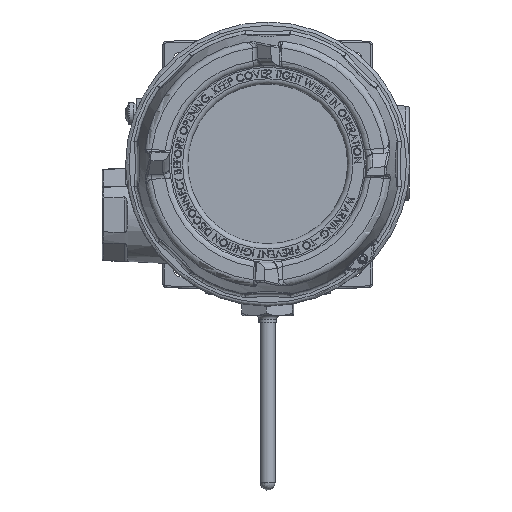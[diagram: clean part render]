
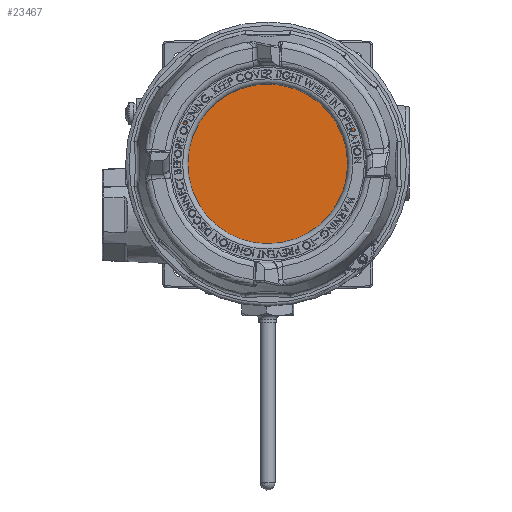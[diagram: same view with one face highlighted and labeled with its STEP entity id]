
A CAD part, top view. The second image highlights one B-rep face of the part: STEP entity #23467.
In plain terms, the highlighted planar face has unit normal (0, 0, 1).
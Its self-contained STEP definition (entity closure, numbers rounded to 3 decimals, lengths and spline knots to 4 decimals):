
#267 = CARTESIAN_POINT ( 'NONE',  ( 0., 0., 3.783 ) ) ;
#11163 = CARTESIAN_POINT ( 'NONE',  ( 0., 0., 3.783 ) ) ;
#11562 = DIRECTION ( 'NONE',  ( 0., 0., 1. ) ) ;
#19088 = VERTEX_POINT ( 'NONE', #66885 ) ;
#20593 = CIRCLE ( 'NONE', #70284, 1.775 ) ;
#23467 = ADVANCED_FACE ( 'NONE', ( #71828 ), #53176, .F. ) ;
#30225 = DIRECTION ( 'NONE',  ( 1., 0., 0. ) ) ;
#32032 = DIRECTION ( 'NONE',  ( 1., 0., 0. ) ) ;
#41750 = EDGE_CURVE ( 'NONE', #19088, #19088, #20593, .T. ) ;
#41900 = DIRECTION ( 'NONE',  ( 0., 0., -1. ) ) ;
#53176 = PLANE ( 'NONE',  #71228 ) ;
#57860 = ORIENTED_EDGE ( 'NONE', *, *, #41750, .T. ) ;
#66885 = CARTESIAN_POINT ( 'NONE',  ( 1.775, 0., 3.783 ) ) ;
#70284 = AXIS2_PLACEMENT_3D ( 'NONE', #267, #11562, #32032 ) ;
#71228 = AXIS2_PLACEMENT_3D ( 'NONE', #11163, #41900, #30225 ) ;
#71828 = FACE_OUTER_BOUND ( 'NONE', #74704, .T. ) ;
#74704 = EDGE_LOOP ( 'NONE', ( #57860 ) ) ;
